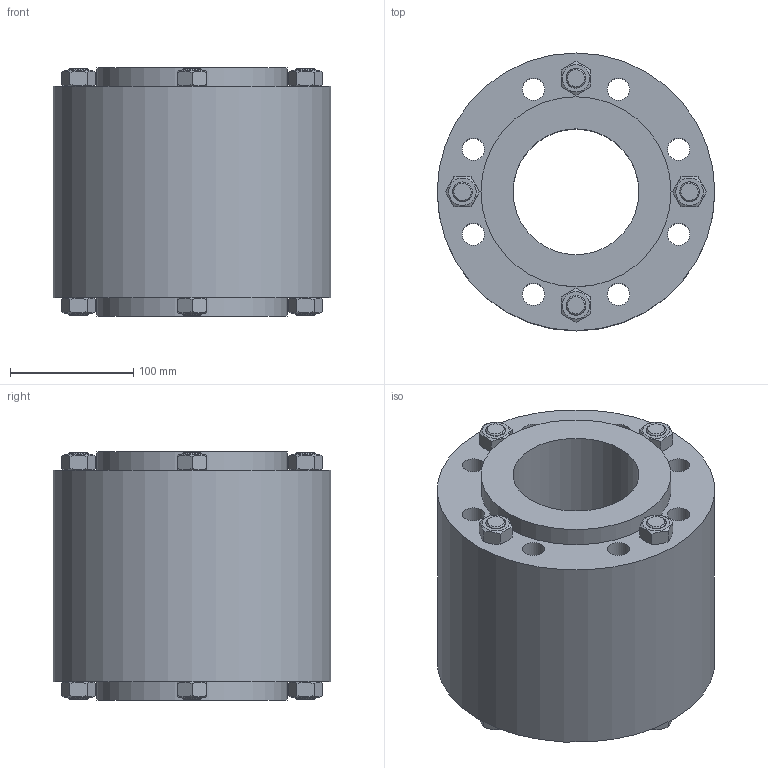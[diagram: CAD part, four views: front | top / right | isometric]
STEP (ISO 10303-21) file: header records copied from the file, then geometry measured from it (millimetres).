
FILE_DESCRIPTION(/* description */ ('ACI TYPE 620 DN100'),/* implementation_level */ '2;1');
FILE_NAME(/* name */ 'C:\Users\willms\Desktop\ACI-620-100.stp',/* time_stamp */ '2020-03-19T10:29:56+01:00',/* author */ ('götz'),/* organization */ ('ACI Industriearmaturen GmbH www.aci24.com info@aci24.com'),/* preprocessor_version */ 'ST-DEVELOPER v16.1',/* originating_system */ 'Autodesk Inventor 2016',/* authorisation */ 'ACI Industriearmaturen GmbH www.aci24.com info@aci24.com');
FILE_SCHEMA (('CONFIG_CONTROL_DESIGN'));
Length unit declared in the file: centimetre
Products named in the file (1): 620
Bounding box: 225 x 225 x 201 mm (x, y, z)
Volume: 5420544.6 mm3; surface area: 346150.1 mm2
Topology: 1 solids, 9 shells, 144 faces, 325 edges, 209 vertices
Faces by surface type: plane 76, cone 40, cylinder 28
Full cylindrical faces by diameter (mm): 16 x16, 18 x8, 102 x1, 154 x2, 225 x1
Entity records: 3638 total; most frequent: CARTESIAN_POINT 769, DIRECTION 530, ORIENTED_EDGE 480, EDGE_LOOP 256, AXIS2_PLACEMENT_3D 241, EDGE_CURVE 240, VERTEX_POINT 192, FACE_OUTER_BOUND 144
